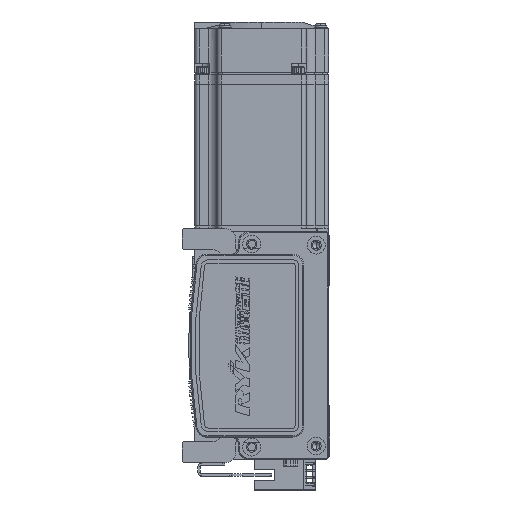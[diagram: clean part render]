
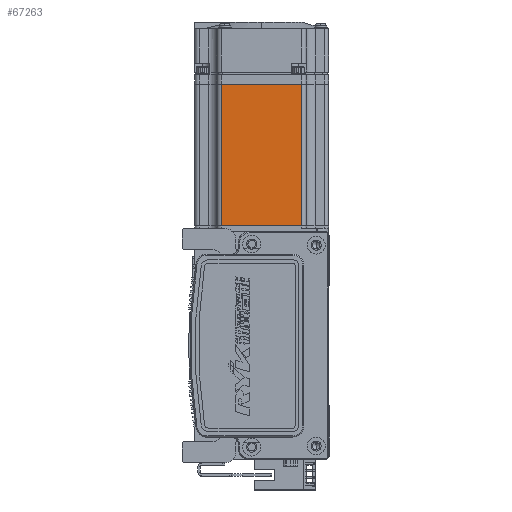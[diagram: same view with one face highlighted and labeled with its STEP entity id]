
A CAD part, left-side view. The second image highlights one B-rep face of the part: STEP entity #67263.
In plain terms, the highlighted planar face has unit normal (-1, 0, 0) as drawn and (0, 0, -1) by its records, which use the part's own axes.
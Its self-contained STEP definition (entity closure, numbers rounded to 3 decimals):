
#130 = DIRECTION ( 'NONE',  ( 0., 0., -1. ) ) ;
#6167 = ORIENTED_EDGE ( 'NONE', *, *, #23738, .T. ) ;
#9081 = LINE ( 'NONE', #62950, #65102 ) ;
#13131 = VERTEX_POINT ( 'NONE', #22376 ) ;
#13556 = DIRECTION ( 'NONE',  ( 1., 0., 0. ) ) ;
#15747 = CARTESIAN_POINT ( 'NONE',  ( -6.5, 25., -30. ) ) ;
#15963 = DIRECTION ( 'NONE',  ( -1., 0., 0. ) ) ;
#17019 = ORIENTED_EDGE ( 'NONE', *, *, #17905, .T. ) ;
#17905 = EDGE_CURVE ( 'NONE', #25759, #13131, #39152, .T. ) ;
#21159 = DIRECTION ( 'NONE',  ( 0., 1., 0. ) ) ;
#22376 = CARTESIAN_POINT ( 'NONE',  ( -70.95, 18., -30. ) ) ;
#23738 = EDGE_CURVE ( 'NONE', #27350, #30879, #42222, .T. ) ;
#24548 = LINE ( 'NONE', #31898, #53409 ) ;
#25759 = VERTEX_POINT ( 'NONE', #40993 ) ;
#26895 = CARTESIAN_POINT ( 'NONE',  ( -70.95, 25., -30. ) ) ;
#27350 = VERTEX_POINT ( 'NONE', #63278 ) ;
#30113 = CARTESIAN_POINT ( 'NONE',  ( -7.75, -18., -30. ) ) ;
#30356 = ORIENTED_EDGE ( 'NONE', *, *, #67237, .T. ) ;
#30879 = VERTEX_POINT ( 'NONE', #30113 ) ;
#31898 = CARTESIAN_POINT ( 'NONE',  ( -6.5, -18., -30. ) ) ;
#32600 = DIRECTION ( 'NONE',  ( -1., 0., 0. ) ) ;
#34441 = EDGE_CURVE ( 'NONE', #13131, #27350, #9081, .T. ) ;
#36108 = EDGE_LOOP ( 'NONE', ( #6167, #30356, #17019, #49574 ) ) ;
#39023 = DIRECTION ( 'NONE',  ( 0., -1., 0. ) ) ;
#39152 = LINE ( 'NONE', #26895, #48478 ) ;
#39261 = CARTESIAN_POINT ( 'NONE',  ( -7.75, 25., -30. ) ) ;
#40993 = CARTESIAN_POINT ( 'NONE',  ( -70.95, -18., -30. ) ) ;
#42222 = LINE ( 'NONE', #39261, #53212 ) ;
#44107 = FACE_OUTER_BOUND ( 'NONE', #36108, .T. ) ;
#48270 = PLANE ( 'NONE',  #55034 ) ;
#48478 = VECTOR ( 'NONE', #21159, 1000. ) ;
#49574 = ORIENTED_EDGE ( 'NONE', *, *, #34441, .T. ) ;
#53212 = VECTOR ( 'NONE', #39023, 1000. ) ;
#53409 = VECTOR ( 'NONE', #32600, 1000. ) ;
#55034 = AXIS2_PLACEMENT_3D ( 'NONE', #15747, #130, #15963 ) ;
#62950 = CARTESIAN_POINT ( 'NONE',  ( -6.5, 18., -30. ) ) ;
#63278 = CARTESIAN_POINT ( 'NONE',  ( -7.75, 18., -30. ) ) ;
#65102 = VECTOR ( 'NONE', #13556, 1000. ) ;
#67237 = EDGE_CURVE ( 'NONE', #30879, #25759, #24548, .T. ) ;
#67263 = ADVANCED_FACE ( 'NONE', ( #44107 ), #48270, .T. ) ;
